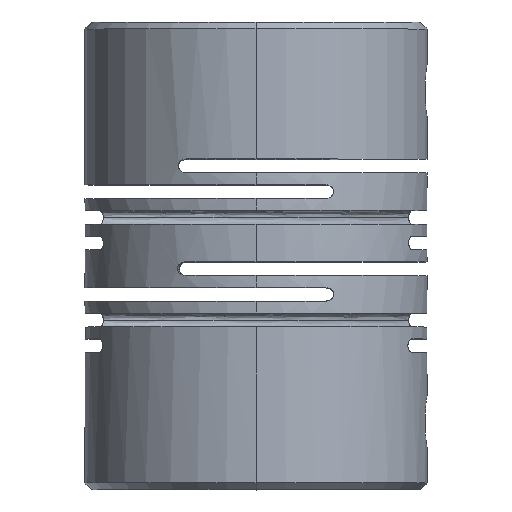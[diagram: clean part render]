
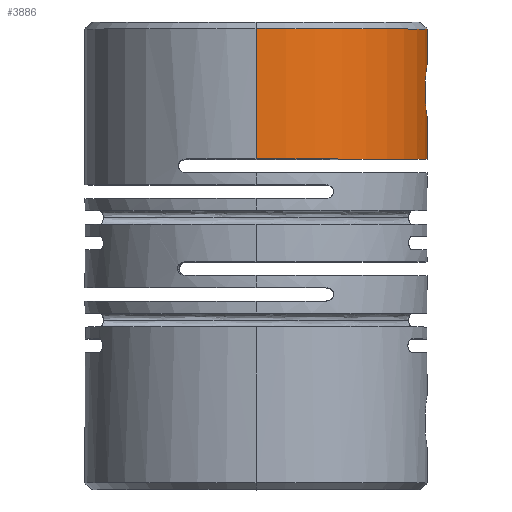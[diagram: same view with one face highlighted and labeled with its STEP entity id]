
A CAD part, top view. The second image highlights one B-rep face of the part: STEP entity #3886.
In plain terms, the highlighted cylindrical face has radius 5 mm (diameter 10 mm), a partial arc.
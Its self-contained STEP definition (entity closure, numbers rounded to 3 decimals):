
#773 = VERTEX_POINT ( 'NONE', #2688 ) ;
#780 = VERTEX_POINT ( 'NONE', #2692 ) ;
#909 = VERTEX_POINT ( 'NONE', #2821 ) ;
#911 = VERTEX_POINT ( 'NONE', #2823 ) ;
#912 = VERTEX_POINT ( 'NONE', #2824 ) ;
#913 = VERTEX_POINT ( 'NONE', #2825 ) ;
#914 = VERTEX_POINT ( 'NONE', #2826 ) ;
#915 = VERTEX_POINT ( 'NONE', #2827 ) ;
#922 = VERTEX_POINT ( 'NONE', #2834 ) ;
#1249 = ORIENTED_EDGE ( 'NONE', *, *, #4770, .T. ) ;
#1250 = ORIENTED_EDGE ( 'NONE', *, *, #3789, .T. ) ;
#1251 = ORIENTED_EDGE ( 'NONE', *, *, #3799, .T. ) ;
#1252 = ORIENTED_EDGE ( 'NONE', *, *, #3783, .T. ) ;
#1253 = ORIENTED_EDGE ( 'NONE', *, *, #2948, .T. ) ;
#1254 = ORIENTED_EDGE ( 'NONE', *, *, #2941, .T. ) ;
#1255 = ORIENTED_EDGE ( 'NONE', *, *, #2940, .T. ) ;
#1256 = ORIENTED_EDGE ( 'NONE', *, *, #2936, .T. ) ;
#1257 = ORIENTED_EDGE ( 'NONE', *, *, #2935, .F. ) ;
#1580 = AXIS2_PLACEMENT_3D ( 'NONE', #4792, #4793, #4794 ) ;
#1591 = VECTOR ( 'NONE', #4806, 1000. ) ;
#1592 = CIRCLE ( 'NONE', #1580, 5. ) ;
#1677 = VECTOR ( 'NONE', #4789, 1000. ) ;
#2416 = EDGE_LOOP ( 'NONE', ( #1249, #1250 ) ) ;
#2424 = EDGE_LOOP ( 'NONE', ( #1251, #1252, #1253, #1254, #1255, #1256, #1257 ) ) ;
#2688 = CARTESIAN_POINT ( 'NONE',  ( 4.936, 11.65, -0.8 ) ) ;
#2692 = CARTESIAN_POINT ( 'NONE',  ( 4.936, 11.65, 0.8 ) ) ;
#2821 = CARTESIAN_POINT ( 'NONE',  ( 0., 9.65, -5. ) ) ;
#2823 = CARTESIAN_POINT ( 'NONE',  ( 0., 10.851, -5. ) ) ;
#2824 = CARTESIAN_POINT ( 'NONE',  ( 0.847, 11.65, -4.928 ) ) ;
#2825 = CARTESIAN_POINT ( 'NONE',  ( 0., 12.449, -5. ) ) ;
#2826 = CARTESIAN_POINT ( 'NONE',  ( 0., 13.45, -5. ) ) ;
#2827 = CARTESIAN_POINT ( 'NONE',  ( 0., 13.45, 5. ) ) ;
#2834 = CARTESIAN_POINT ( 'NONE',  ( 0., 9.65, 5. ) ) ;
#2935 = EDGE_CURVE ( 'NONE', #922, #915, #4778, .T. ) ;
#2936 = EDGE_CURVE ( 'NONE', #914, #915, #1592, .T. ) ;
#2940 = EDGE_CURVE ( 'NONE', #913, #914, #4804, .T. ) ;
#2941 = EDGE_CURVE ( 'NONE', #912, #913, #6732, .T. ) ;
#2948 = EDGE_CURVE ( 'NONE', #911, #912, #6734, .T. ) ;
#3783 = EDGE_CURVE ( 'NONE', #909, #911, #6048, .T. ) ;
#3789 = EDGE_CURVE ( 'NONE', #780, #773, #6815, .T. ) ;
#3799 = EDGE_CURVE ( 'NONE', #922, #909, #6436, .T. ) ;
#3886 = ADVANCED_FACE ( 'NONE', ( #6890, #6891 ), #6889, .T. ) ;
#4770 = EDGE_CURVE ( 'NONE', #773, #780, #6832, .T. ) ;
#4778 = LINE ( 'NONE', #4788, #1677 ) ;
#4788 = CARTESIAN_POINT ( 'NONE',  ( 0., 13.65, 5. ) ) ;
#4789 = DIRECTION ( 'NONE',  ( 0., 1., 0. ) ) ;
#4792 = CARTESIAN_POINT ( 'NONE',  ( 0., 13.45, 0. ) ) ;
#4793 = DIRECTION ( 'NONE',  ( 0., -1., 0. ) ) ;
#4794 = DIRECTION ( 'NONE',  ( 0., 0., 1. ) ) ;
#4795 = CARTESIAN_POINT ( 'NONE',  ( 0.847, 11.65, -4.928 ) ) ;
#4796 = CARTESIAN_POINT ( 'NONE',  ( 0.847, 11.759, -4.928 ) ) ;
#4804 = LINE ( 'NONE', #4805, #1591 ) ;
#4805 = CARTESIAN_POINT ( 'NONE',  ( 0., 13.65, -5. ) ) ;
#4806 = DIRECTION ( 'NONE',  ( 0., 1., 0. ) ) ;
#4809 = CARTESIAN_POINT ( 'NONE',  ( 0.825, 11.868, -4.932 ) ) ;
#4810 = CARTESIAN_POINT ( 'NONE',  ( 0.739, 12.067, -4.945 ) ) ;
#4811 = CARTESIAN_POINT ( 'NONE',  ( 0.675, 12.158, -4.955 ) ) ;
#4812 = CARTESIAN_POINT ( 'NONE',  ( 0.518, 12.306, -4.974 ) ) ;
#4813 = CARTESIAN_POINT ( 'NONE',  ( 0.423, 12.365, -4.983 ) ) ;
#4814 = CARTESIAN_POINT ( 'NONE',  ( 0.219, 12.439, -4.996 ) ) ;
#4815 = CARTESIAN_POINT ( 'NONE',  ( 0.11, 12.455, -5. ) ) ;
#4816 = CARTESIAN_POINT ( 'NONE',  ( 0., 12.449, -5. ) ) ;
#4825 = CARTESIAN_POINT ( 'NONE',  ( 0.108, 10.845, -5. ) ) ;
#4826 = CARTESIAN_POINT ( 'NONE',  ( 0., 10.851, -5. ) ) ;
#4836 = CARTESIAN_POINT ( 'NONE',  ( 0.219, 10.861, -4.996 ) ) ;
#4837 = CARTESIAN_POINT ( 'NONE',  ( 0.422, 10.935, -4.983 ) ) ;
#4838 = CARTESIAN_POINT ( 'NONE',  ( 0.517, 10.993, -4.974 ) ) ;
#4839 = CARTESIAN_POINT ( 'NONE',  ( 0.754, 11.216, -4.945 ) ) ;
#4840 = CARTESIAN_POINT ( 'NONE',  ( 0.847, 11.432, -4.928 ) ) ;
#4841 = CARTESIAN_POINT ( 'NONE',  ( 0.847, 11.65, -4.928 ) ) ;
#6048 = LINE ( 'NONE', #6049, #6417 ) ;
#6049 = CARTESIAN_POINT ( 'NONE',  ( 0., 13.65, -5. ) ) ;
#6050 = DIRECTION ( 'NONE',  ( 0., 1., 0. ) ) ;
#6078 = CARTESIAN_POINT ( 'NONE',  ( 4.936, 11.65, 0.8 ) ) ;
#6079 = CARTESIAN_POINT ( 'NONE',  ( 4.936, 11.862, 0.8 ) ) ;
#6084 = CARTESIAN_POINT ( 'NONE',  ( 4.951, 12.069, 0.713 ) ) ;
#6085 = CARTESIAN_POINT ( 'NONE',  ( 4.976, 12.29, 0.492 ) ) ;
#6086 = CARTESIAN_POINT ( 'NONE',  ( 4.985, 12.349, 0.403 ) ) ;
#6087 = CARTESIAN_POINT ( 'NONE',  ( 4.997, 12.429, 0.209 ) ) ;
#6088 = CARTESIAN_POINT ( 'NONE',  ( 5., 12.45, 0.105 ) ) ;
#6089 = CARTESIAN_POINT ( 'NONE',  ( 5., 12.45, -0.106 ) ) ;
#6090 = CARTESIAN_POINT ( 'NONE',  ( 4.997, 12.429, -0.21 ) ) ;
#6091 = CARTESIAN_POINT ( 'NONE',  ( 4.985, 12.348, -0.404 ) ) ;
#6092 = CARTESIAN_POINT ( 'NONE',  ( 4.976, 12.289, -0.492 ) ) ;
#6093 = CARTESIAN_POINT ( 'NONE',  ( 4.959, 12.142, -0.64 ) ) ;
#6094 = CARTESIAN_POINT ( 'NONE',  ( 4.951, 12.052, -0.699 ) ) ;
#6095 = CARTESIAN_POINT ( 'NONE',  ( 4.939, 11.86, -0.779 ) ) ;
#6096 = CARTESIAN_POINT ( 'NONE',  ( 4.936, 11.754, -0.8 ) ) ;
#6097 = CARTESIAN_POINT ( 'NONE',  ( 4.936, 11.65, -0.8 ) ) ;
#6140 = CARTESIAN_POINT ( 'NONE',  ( 0., 9.65, 0. ) ) ;
#6141 = DIRECTION ( 'NONE',  ( 0., 1., 0. ) ) ;
#6142 = DIRECTION ( 'NONE',  ( 0., 0., 1. ) ) ;
#6417 = VECTOR ( 'NONE', #6050, 1000. ) ;
#6436 = CIRCLE ( 'NONE', #6439, 5. ) ;
#6439 = AXIS2_PLACEMENT_3D ( 'NONE', #6140, #6141, #6142 ) ;
#6527 = AXIS2_PLACEMENT_3D ( 'NONE', #6892, #6886, #6894 ) ;
#6732 = B_SPLINE_CURVE_WITH_KNOTS ( 'NONE', 3,
 ( #4795, #4796, #4809, #4810, #4811, #4812, #4813, #4814, #4815, #4816 ),
 .UNSPECIFIED., .F., .F.,
 ( 4, 2, 2, 2, 4 ),
 ( 0.004, 0.004, 0.004, 0.005, 0.005 ),
 .UNSPECIFIED. ) ;
#6734 = B_SPLINE_CURVE_WITH_KNOTS ( 'NONE', 3,
 ( #4826, #4825, #4836, #4837, #4838, #4839, #4840, #4841 ),
 .UNSPECIFIED., .F., .F.,
 ( 4, 2, 2, 4 ),
 ( 0.002, 0.003, 0.003, 0.004 ),
 .UNSPECIFIED. ) ;
#6815 = B_SPLINE_CURVE_WITH_KNOTS ( 'NONE', 3,
 ( #6078, #6079, #6084, #6085, #6086, #6087, #6088, #6089, #6090, #6091, #6092, #6093, #6094, #6095, #6096, #6097 ),
 .UNSPECIFIED., .F., .F.,
 ( 4, 2, 2, 2, 2, 2, 2, 4 ),
 ( 0.005, 0.005, 0.006, 0.006, 0.006, 0.007, 0.007, 0.007 ),
 .UNSPECIFIED. ) ;
#6832 = B_SPLINE_CURVE_WITH_KNOTS ( 'NONE', 3,
 ( #7400, #7394, #7405, #7406, #7407, #7408, #7409, #7410, #7411, #7412, #7413, #7414, #7415, #7416, #7417, #7418 ),
 .UNSPECIFIED., .F., .F.,
 ( 4, 2, 2, 2, 2, 2, 2, 4 ),
 ( 0.002, 0.003, 0.003, 0.003, 0.004, 0.004, 0.005, 0.005 ),
 .UNSPECIFIED. ) ;
#6886 = DIRECTION ( 'NONE',  ( 0., 1., 0. ) ) ;
#6889 = CYLINDRICAL_SURFACE ( 'NONE', #6527, 5. ) ;
#6890 = FACE_BOUND ( 'NONE', #2416, .T. ) ;
#6891 = FACE_OUTER_BOUND ( 'NONE', #2424, .T. ) ;
#6892 = CARTESIAN_POINT ( 'NONE',  ( 0., 13.65, 0. ) ) ;
#6894 = DIRECTION ( 'NONE',  ( 0., 0., 1. ) ) ;
#7394 = CARTESIAN_POINT ( 'NONE',  ( 4.936, 11.546, -0.8 ) ) ;
#7400 = CARTESIAN_POINT ( 'NONE',  ( 4.936, 11.65, -0.8 ) ) ;
#7405 = CARTESIAN_POINT ( 'NONE',  ( 4.939, 11.44, -0.779 ) ) ;
#7406 = CARTESIAN_POINT ( 'NONE',  ( 4.951, 11.247, -0.699 ) ) ;
#7407 = CARTESIAN_POINT ( 'NONE',  ( 4.959, 11.159, -0.64 ) ) ;
#7408 = CARTESIAN_POINT ( 'NONE',  ( 4.976, 11.01, -0.491 ) ) ;
#7409 = CARTESIAN_POINT ( 'NONE',  ( 4.985, 10.951, -0.403 ) ) ;
#7410 = CARTESIAN_POINT ( 'NONE',  ( 4.997, 10.871, -0.209 ) ) ;
#7411 = CARTESIAN_POINT ( 'NONE',  ( 5., 10.85, -0.104 ) ) ;
#7412 = CARTESIAN_POINT ( 'NONE',  ( 5., 10.85, 0.209 ) ) ;
#7413 = CARTESIAN_POINT ( 'NONE',  ( 4.985, 10.937, 0.418 ) ) ;
#7414 = CARTESIAN_POINT ( 'NONE',  ( 4.96, 11.158, 0.639 ) ) ;
#7415 = CARTESIAN_POINT ( 'NONE',  ( 4.951, 11.247, 0.699 ) ) ;
#7416 = CARTESIAN_POINT ( 'NONE',  ( 4.939, 11.44, 0.779 ) ) ;
#7417 = CARTESIAN_POINT ( 'NONE',  ( 4.936, 11.544, 0.8 ) ) ;
#7418 = CARTESIAN_POINT ( 'NONE',  ( 4.936, 11.65, 0.8 ) ) ;
